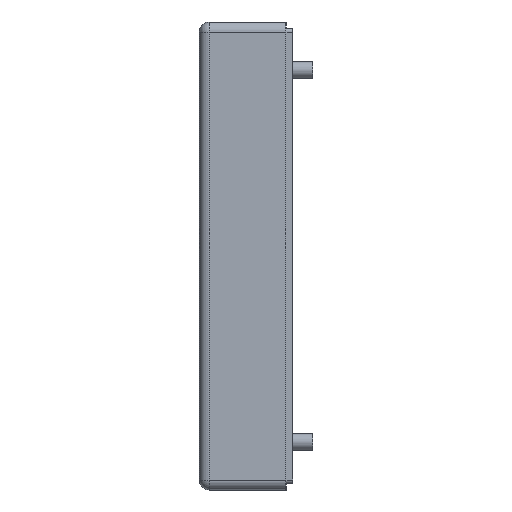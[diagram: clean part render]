
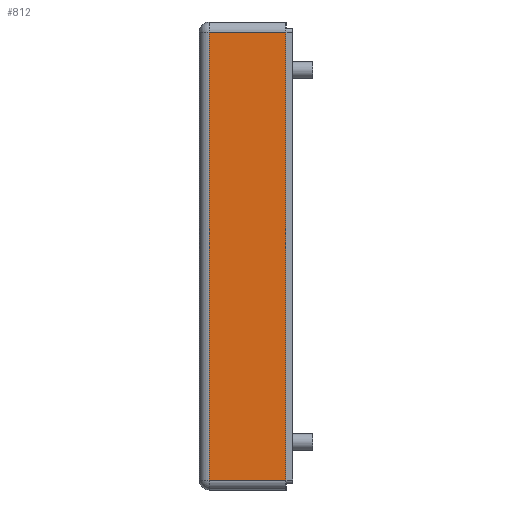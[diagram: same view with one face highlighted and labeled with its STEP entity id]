
A CAD part, left-side view. The second image highlights one B-rep face of the part: STEP entity #812.
In plain terms, the highlighted planar face has unit normal (-1, 0, 0).
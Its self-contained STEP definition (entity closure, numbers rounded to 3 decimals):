
#200 = EDGE_LOOP ( 'NONE', ( #2757, #1469, #1680, #1940 ) ) ;
#266 = LINE ( 'NONE', #1915, #1368 ) ;
#350 = AXIS2_PLACEMENT_3D ( 'NONE', #1562, #1544, #1540 ) ;
#509 = EDGE_CURVE ( 'NONE', #1906, #2052, #2138, .T. ) ;
#528 = LINE ( 'NONE', #1246, #1670 ) ;
#618 = DIRECTION ( 'NONE',  ( 0., 1., 0. ) ) ;
#635 = CARTESIAN_POINT ( 'NONE',  ( -62.55, 13., 33.6 ) ) ;
#812 = ADVANCED_FACE ( 'NONE', ( #2463 ), #1578, .F. ) ;
#895 = CARTESIAN_POINT ( 'NONE',  ( -62.55, 11.5, 33.6 ) ) ;
#975 = VERTEX_POINT ( 'NONE', #1200 ) ;
#1149 = VECTOR ( 'NONE', #618, 1000. ) ;
#1150 = DIRECTION ( 'NONE',  ( 0., -1., 0. ) ) ;
#1200 = CARTESIAN_POINT ( 'NONE',  ( -62.55, 0., -33.6 ) ) ;
#1246 = CARTESIAN_POINT ( 'NONE',  ( -62.55, 13., -33.6 ) ) ;
#1368 = VECTOR ( 'NONE', #1903, 1000. ) ;
#1469 = ORIENTED_EDGE ( 'NONE', *, *, #509, .T. ) ;
#1540 = DIRECTION ( 'NONE',  ( 0., 0., -1. ) ) ;
#1544 = DIRECTION ( 'NONE',  ( 1., 0., 0. ) ) ;
#1562 = CARTESIAN_POINT ( 'NONE',  ( -62.55, 13., -35.1 ) ) ;
#1578 = PLANE ( 'NONE',  #350 ) ;
#1628 = CARTESIAN_POINT ( 'NONE',  ( -62.55, 0., 33.6 ) ) ;
#1670 = VECTOR ( 'NONE', #1150, 1000. ) ;
#1680 = ORIENTED_EDGE ( 'NONE', *, *, #1865, .T. ) ;
#1798 = VERTEX_POINT ( 'NONE', #1628 ) ;
#1865 = EDGE_CURVE ( 'NONE', #2052, #975, #528, .T. ) ;
#1903 = DIRECTION ( 'NONE',  ( 0., 0., 1. ) ) ;
#1906 = VERTEX_POINT ( 'NONE', #895 ) ;
#1915 = CARTESIAN_POINT ( 'NONE',  ( -62.55, 0., -35.1 ) ) ;
#1940 = ORIENTED_EDGE ( 'NONE', *, *, #2630, .T. ) ;
#2052 = VERTEX_POINT ( 'NONE', #2530 ) ;
#2138 = LINE ( 'NONE', #2352, #2662 ) ;
#2266 = EDGE_CURVE ( 'NONE', #1798, #1906, #2384, .T. ) ;
#2352 = CARTESIAN_POINT ( 'NONE',  ( -62.55, 11.5, -33.6 ) ) ;
#2354 = DIRECTION ( 'NONE',  ( 0., 0., -1. ) ) ;
#2384 = LINE ( 'NONE', #635, #1149 ) ;
#2463 = FACE_OUTER_BOUND ( 'NONE', #200, .T. ) ;
#2530 = CARTESIAN_POINT ( 'NONE',  ( -62.55, 11.5, -33.6 ) ) ;
#2630 = EDGE_CURVE ( 'NONE', #975, #1798, #266, .T. ) ;
#2662 = VECTOR ( 'NONE', #2354, 1000. ) ;
#2757 = ORIENTED_EDGE ( 'NONE', *, *, #2266, .T. ) ;
